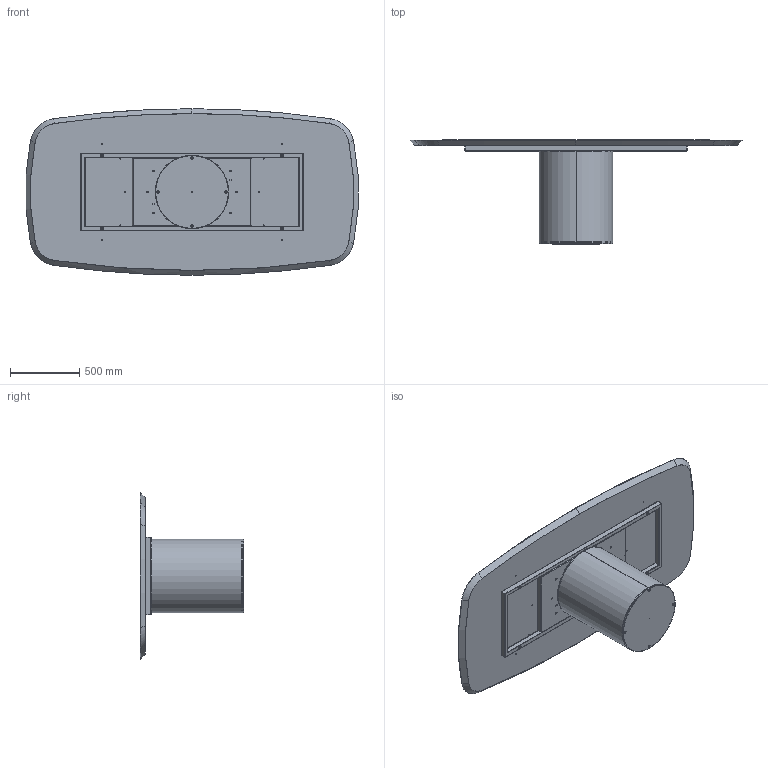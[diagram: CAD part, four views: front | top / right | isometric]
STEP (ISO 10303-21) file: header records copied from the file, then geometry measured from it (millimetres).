
FILE_DESCRIPTION (( 'STEP AP203' ), '1' );
FILE_NAME ('CI43W.STEP', '2024-08-08T07:26:57', ( '' ), ( '' ), 'SwSTEP 2.0', 'SolidWorks 2022', '' );
FILE_SCHEMA (( 'CONFIG_CONTROL_DESIGN' ));
Length unit declared in the file: millimetre
Products named in the file (12): TTAV01_01-05-TELAIO UNIVERSALE X TAVOLI 180 240cm; C2B000000-03-CILINDRO BASE D.530mm_Normale; COLLO TELAIO UNIVERSALE TTAV01 CON FERRAMENTA_MTG TOP LEGNO-MARMO-KING; TTAV01_02-05-VASSOIO IRRIGIDIMENTO TELAIO UNIVERSALE; W4XCMXX-00-Piani Sagomati legno_2400 x 1200; C2B000000_02-01-ZAVORRA IN FERRO D.530mm; C2B000000_01-00-struttura cilindro D.530mm; M8xXXmm_M8x55mm; CI43W; rondella M8_8X24; M8xXXmm_hex_M8X20mm; TTAV01-05-TELAIO UNIVERSALE X TAVOLI 180 240cm
Assembly tree (20 placements, depth 4):
  CI43W
    C2B000000-03-CILINDRO BASE D.530mm_Normale
      C2B000000_01-00-struttura cilindro D.530mm
      C2B000000_02-01-ZAVORRA IN FERRO D.530mm
      M8xXXmm_hex_M8X20mm  x4
    COLLO TELAIO UNIVERSALE TTAV01 CON FERRAMENTA_MTG TOP LEGNO-MARMO-KING
      TTAV01-05-TELAIO UNIVERSALE X TAVOLI 180 240cm
        TTAV01_02-05-VASSOIO IRRIGIDIMENTO TELAIO UNIVERSALE
        TTAV01_01-05-TELAIO UNIVERSALE X TAVOLI 180 240cm
      rondella M8_8X24  x4
      M8xXXmm_M8x55mm  x4
    W4XCMXX-00-Piani Sagomati legno_2400 x 1200
Bounding box: 2391.9 x 748 x 1200 mm (x, y, z)
Volume: 105627130.3 mm3; surface area: 10535964.9 mm2
Topology: 20 solids, 20 shells, 763 faces, 1794 edges, 1038 vertices
Faces by surface type: plane 292, cylinder 269, cone 115, torus 65, sphere 22
Entity records: 16823 total; most frequent: DIRECTION 2839, CARTESIAN_POINT 2638, ORIENTED_EDGE 2480, EDGE_CURVE 1240, AXIS2_PLACEMENT_3D 1080, VERTEX_POINT 761, VECTOR 679, LINE 679
